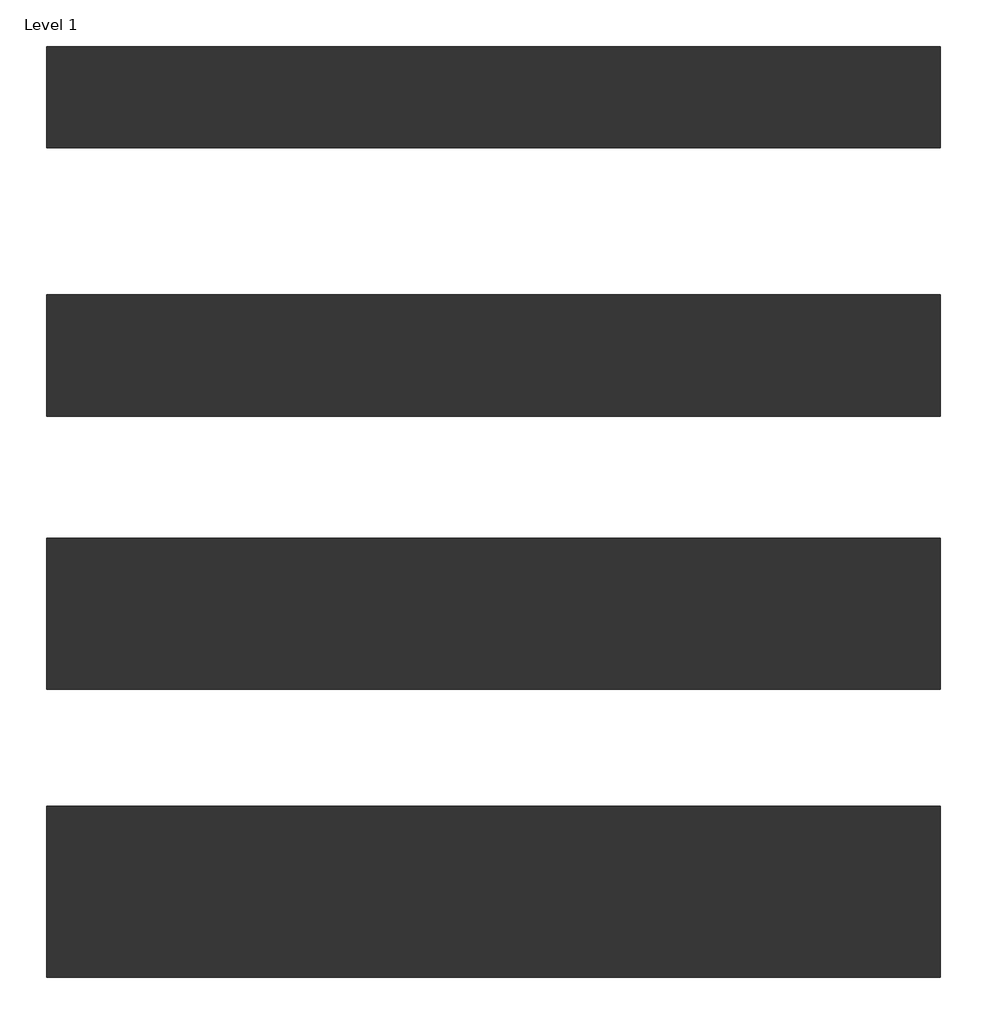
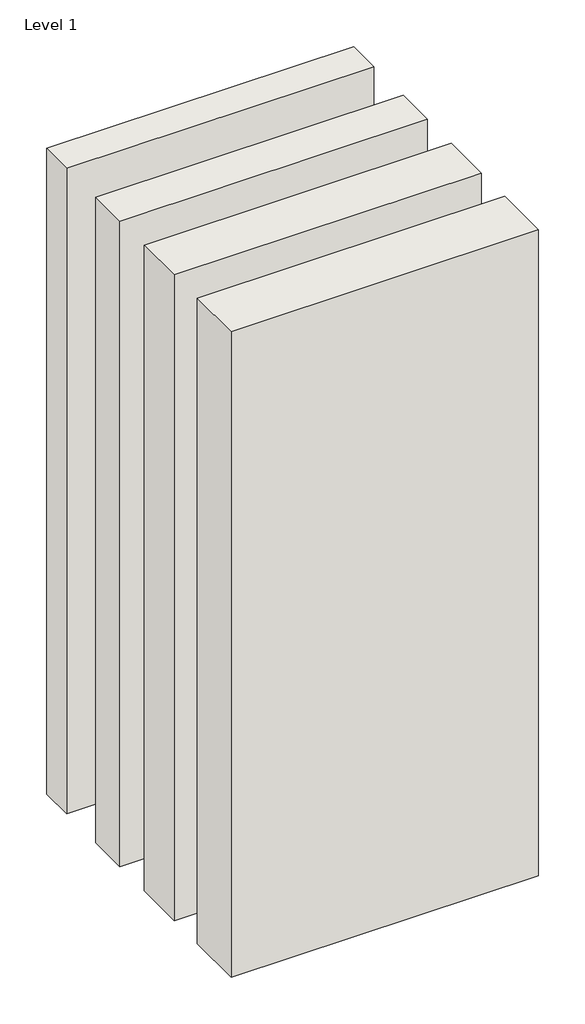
# One storey: 4 walls.
"""IFC4 building model written with IfcOpenShell, lengths in millimetres."""

from ifc_helpers import new_model, si_unit, origin, origin_with_axes, place, context, project, spatial, polyline, outline, extrude, element, save

model = new_model("IFC4")

# Units and contexts
model_context = context("Model", 3, world=origin())
ifc_project = project(units=[si_unit("LENGTHUNIT", "METRE", prefix="MILLI")], contexts=[model_context])

# Site, building, storey
site = spatial("IfcSite", under=ifc_project)
building = spatial("IfcBuilding", under=site)
storey = spatial("IfcBuildingStorey", under=building, Name="Level 1", Elevation=0.0)

# Walls
placement = place(None, origin())
element("IfcWall", 1, ObjectType="Interior-Timber Frame-Double Stud-CSR2368-204mm", at=placement, inside=storey, context=model_context, shape_type="SweptSolid", body=[
    extrude(outline(polyline([(1209.1027791, -2914.5592728), (3009.1027791, -2914.5592728), (3009.1027791, -3118.5592728), (1209.1027791, -3118.5592728), (1209.1027791, -2914.5592728)])), origin_with_axes(), (0.0, 0.0, 1.0), 4000.0),
])
element("IfcWall", 2, ObjectType="Interior-Timber Frame-Double Stud-CSR2368-244mm", at=placement, inside=storey, context=model_context, shape_type="SweptSolid", body=[
    extrude(outline(polyline([(1209.1027791, -3414.5592728), (3009.1027791, -3414.5592728), (3009.1027791, -3658.5592728), (1209.1027791, -3658.5592728), (1209.1027791, -3414.5592728)])), origin_with_axes(), (0.0, 0.0, 1.0), 4000.0),
])
element("IfcWall", 3, ObjectType="Interior-Timber Frame-Double Stud-CSR2368-304mm", at=placement, inside=storey, context=model_context, shape_type="SweptSolid", body=[
    extrude(outline(polyline([(1209.1027791, -3904.5592728), (3009.1027791, -3904.5592728), (3009.1027791, -4208.5592728), (1209.1027791, -4208.5592728), (1209.1027791, -3904.5592728)])), origin_with_axes(), (0.0, 0.0, 1.0), 4000.0),
])
element("IfcWall", 4, ObjectType="Interior-Timber Frame-Double Stud-CSR2368-344mm", at=placement, inside=storey, context=model_context, shape_type="SweptSolid", body=[
    extrude(outline(polyline([(1209.1027791, -4444.5592728), (3009.1027791, -4444.5592728), (3009.1027791, -4788.5592728), (1209.1027791, -4788.5592728), (1209.1027791, -4444.5592728)])), origin_with_axes(), (0.0, 0.0, 1.0), 4000.0),
])

save(model, "model.ifc")
